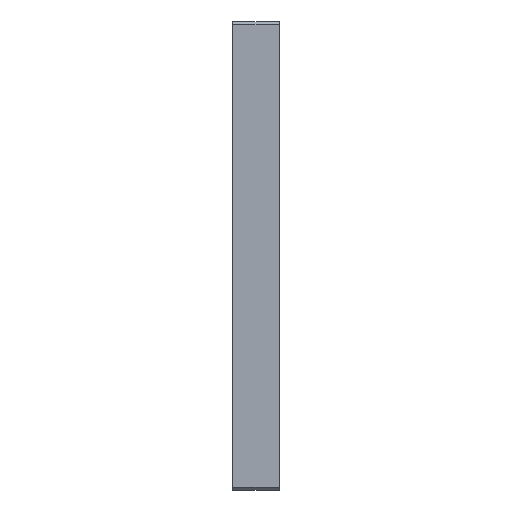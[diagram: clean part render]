
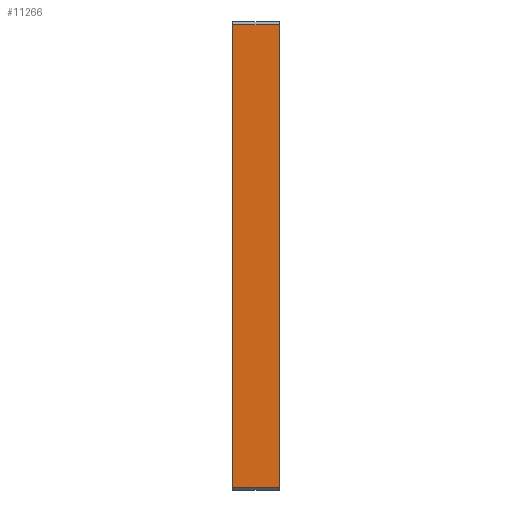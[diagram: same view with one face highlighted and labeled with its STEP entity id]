
A CAD part, left-side view. The second image highlights one B-rep face of the part: STEP entity #11266.
In plain terms, the highlighted planar face has unit normal (-1, 0, 0).
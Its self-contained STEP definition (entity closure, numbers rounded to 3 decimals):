
#2650=DIRECTION('',(0.,0.,1.));
#2651=VECTOR('',#2650,494.);
#2652=CARTESIAN_POINT('',(-300.,24.9,-247.));
#2653=LINE('',#2652,#2651);
#2654=DIRECTION('',(0.,-1.,0.));
#2655=VECTOR('',#2654,49.8);
#2656=CARTESIAN_POINT('',(-300.,24.9,247.));
#2657=LINE('',#2656,#2655);
#2658=DIRECTION('',(0.,0.,-1.));
#2659=VECTOR('',#2658,494.);
#2660=CARTESIAN_POINT('',(-300.,-24.9,247.));
#2661=LINE('',#2660,#2659);
#2662=DIRECTION('',(0.,-1.,0.));
#2663=VECTOR('',#2662,49.8);
#2664=CARTESIAN_POINT('',(-300.,24.9,-247.));
#2665=LINE('',#2664,#2663);
#8042=CARTESIAN_POINT('',(-300.,24.9,-247.));
#8044=VERTEX_POINT('',#8042);
#8049=CARTESIAN_POINT('',(-300.,24.9,247.));
#8050=VERTEX_POINT('',#8049);
#8077=CARTESIAN_POINT('',(-300.,-24.9,-247.));
#8079=VERTEX_POINT('',#8077);
#8101=CARTESIAN_POINT('',(-300.,-24.9,247.));
#8102=VERTEX_POINT('',#8101);
#11252=CARTESIAN_POINT('',(-300.,-25.,-250.));
#11253=DIRECTION('',(-1.,0.,0.));
#11254=DIRECTION('',(0.,0.,1.));
#11255=AXIS2_PLACEMENT_3D('',#11252,#11253,#11254);
#11256=PLANE('',#11255);
#11258=ORIENTED_EDGE('',*,*,#11257,.T.);
#11260=ORIENTED_EDGE('',*,*,#11259,.T.);
#11262=ORIENTED_EDGE('',*,*,#11261,.T.);
#11263=ORIENTED_EDGE('',*,*,#11243,.F.);
#11264=EDGE_LOOP('',(#11258,#11260,#11262,#11263));
#11265=FACE_OUTER_BOUND('',#11264,.F.);
#11266=ADVANCED_FACE('',(#11265),#11256,.T.);
#11243=EDGE_CURVE('',#8044,#8079,#2665,.T.);
#11257=EDGE_CURVE('',#8044,#8050,#2653,.T.);
#11259=EDGE_CURVE('',#8050,#8102,#2657,.T.);
#11261=EDGE_CURVE('',#8102,#8079,#2661,.T.);
